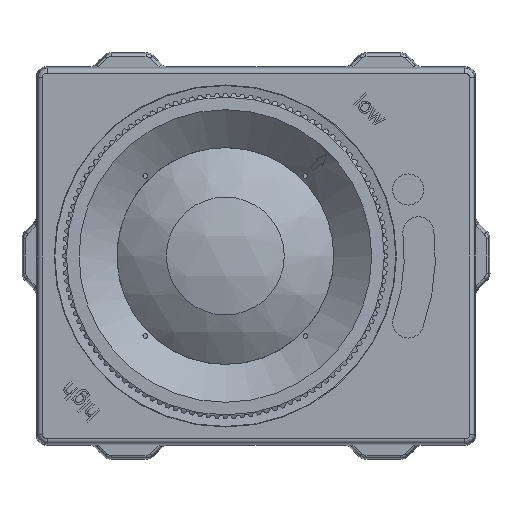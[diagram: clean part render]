
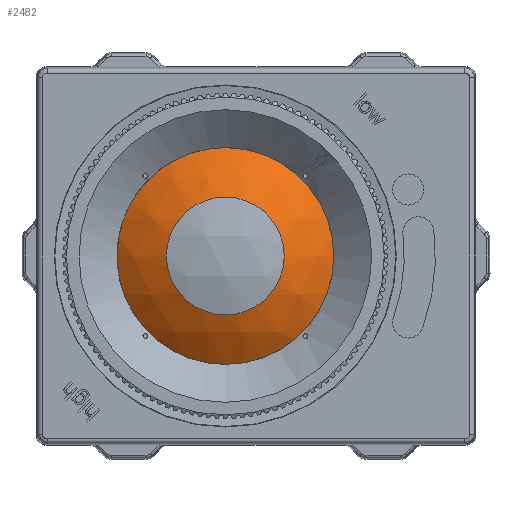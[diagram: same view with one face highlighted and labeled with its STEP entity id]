
A CAD part, front view. The second image highlights one B-rep face of the part: STEP entity #2482.
In plain terms, the highlighted spherical face has radius 35 mm.
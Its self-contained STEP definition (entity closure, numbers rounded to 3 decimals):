
#1472=CARTESIAN_POINT('',(-23.,-7.82,0.));
#1473=VERTEX_POINT('',#1472);
#1474=CARTESIAN_POINT('',(0.,-7.82,0.));
#1475=DIRECTION('',(0.0,1.0,0.0));
#1476=DIRECTION('',(-1.0,0.0,0.0));
#1477=AXIS2_PLACEMENT_3D('',#1474,#1475,#1476);
#1478=CIRCLE('',#1477,23.);
#1479=EDGE_CURVE('',#1473,#1473,#1478,.T.);
#2459=CARTESIAN_POINT('',(-12.493,-14.133,0.));
#2460=VERTEX_POINT('',#2459);
#2461=CARTESIAN_POINT('',(0.,-14.133,0.));
#2462=DIRECTION('',(0.0,1.0,0.0));
#2463=DIRECTION('',(-1.0,0.0,0.0));
#2464=AXIS2_PLACEMENT_3D('',#2461,#2462,#2463);
#2465=CIRCLE('',#2464,12.493);
#2466=EDGE_CURVE('',#2460,#2460,#2465,.T.);
#2471=CARTESIAN_POINT('',(0.,18.562,0.));
#2472=DIRECTION('',(0.0,0.0,1.0));
#2473=DIRECTION('',(1.0,0.0,0.0));
#2474=AXIS2_PLACEMENT_3D('',#2471,#2472,#2473);
#2475=SPHERICAL_SURFACE('',#2474,35.);
#2476=ORIENTED_EDGE('',*,*,#1479,.F.);
#2477=EDGE_LOOP('',(#2476));
#2478=FACE_OUTER_BOUND('',#2477,.T.);
#2479=ORIENTED_EDGE('',*,*,#2466,.T.);
#2480=EDGE_LOOP('',(#2479));
#2481=FACE_BOUND('',#2480,.T.);
#2482=ADVANCED_FACE('',(#2478,#2481),#2475,.T.);
